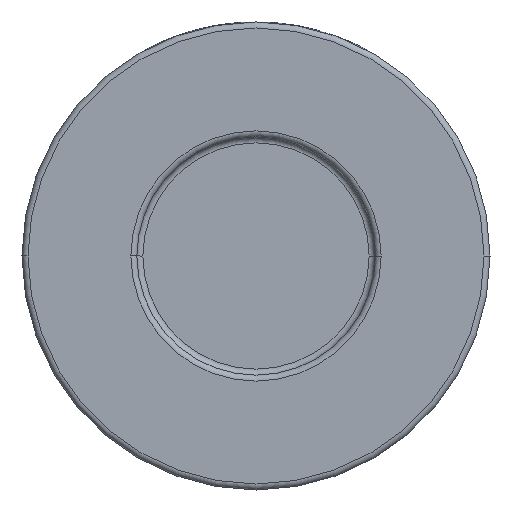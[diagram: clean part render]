
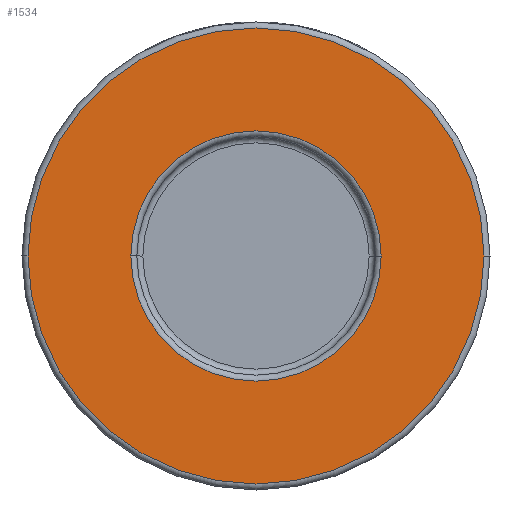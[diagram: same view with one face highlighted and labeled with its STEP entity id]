
A CAD part, front view. The second image highlights one B-rep face of the part: STEP entity #1534.
In plain terms, the highlighted planar face has unit normal (0, -1, 0).
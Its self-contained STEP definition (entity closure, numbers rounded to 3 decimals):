
#2 = VERTEX_POINT ( 'NONE', #937 ) ;
#11 = DIRECTION ( 'NONE',  ( 0., -1., 0. ) ) ;
#224 = CIRCLE ( 'NONE', #2835, 38. ) ;
#301 = DIRECTION ( 'NONE',  ( 0., -1., 0. ) ) ;
#399 = CARTESIAN_POINT ( 'NONE',  ( 0., -29., 0. ) ) ;
#573 = VERTEX_POINT ( 'NONE', #4631 ) ;
#723 = VERTEX_POINT ( 'NONE', #2298 ) ;
#895 = CIRCLE ( 'NONE', #3442, 38. ) ;
#896 = EDGE_CURVE ( 'NONE', #2, #573, #895, .T. ) ;
#937 = CARTESIAN_POINT ( 'NONE',  ( 38., -29., 0. ) ) ;
#1167 = EDGE_LOOP ( 'NONE', ( #1705, #2759 ) ) ;
#1256 = AXIS2_PLACEMENT_3D ( 'NONE', #2396, #3422, #3828 ) ;
#1271 = AXIS2_PLACEMENT_3D ( 'NONE', #2318, #1516, #3655 ) ;
#1495 = CIRCLE ( 'NONE', #4121, 20.85 ) ;
#1516 = DIRECTION ( 'NONE',  ( 0., -1., 0. ) ) ;
#1534 = ADVANCED_FACE ( 'NONE', ( #3725, #2292 ), #1616, .T. ) ;
#1553 = CIRCLE ( 'NONE', #1256, 20.85 ) ;
#1616 = PLANE ( 'NONE',  #1271 ) ;
#1705 = ORIENTED_EDGE ( 'NONE', *, *, #896, .T. ) ;
#1713 = CARTESIAN_POINT ( 'NONE',  ( 0., -29., 0. ) ) ;
#1764 = EDGE_CURVE ( 'NONE', #573, #2, #224, .T. ) ;
#2210 = EDGE_CURVE ( 'NONE', #2322, #723, #1495, .T. ) ;
#2292 = FACE_OUTER_BOUND ( 'NONE', #1167, .T. ) ;
#2298 = CARTESIAN_POINT ( 'NONE',  ( 20.85, -29., 0. ) ) ;
#2318 = CARTESIAN_POINT ( 'NONE',  ( 39., -29., 0. ) ) ;
#2322 = VERTEX_POINT ( 'NONE', #3498 ) ;
#2353 = EDGE_LOOP ( 'NONE', ( #2445, #4612 ) ) ;
#2396 = CARTESIAN_POINT ( 'NONE',  ( 0., -29., 0. ) ) ;
#2445 = ORIENTED_EDGE ( 'NONE', *, *, #3676, .T. ) ;
#2498 = DIRECTION ( 'NONE',  ( 1., 0., 0. ) ) ;
#2505 = DIRECTION ( 'NONE',  ( 1., 0., 0. ) ) ;
#2759 = ORIENTED_EDGE ( 'NONE', *, *, #1764, .T. ) ;
#2835 = AXIS2_PLACEMENT_3D ( 'NONE', #3956, #11, #2498 ) ;
#2972 = DIRECTION ( 'NONE',  ( 1., 0., 0. ) ) ;
#3422 = DIRECTION ( 'NONE',  ( 0., 1., 0. ) ) ;
#3442 = AXIS2_PLACEMENT_3D ( 'NONE', #1713, #301, #2505 ) ;
#3498 = CARTESIAN_POINT ( 'NONE',  ( -20.85, -29., 0. ) ) ;
#3655 = DIRECTION ( 'NONE',  ( 1., 0., 0. ) ) ;
#3676 = EDGE_CURVE ( 'NONE', #723, #2322, #1553, .T. ) ;
#3711 = DIRECTION ( 'NONE',  ( 0., 1., 0. ) ) ;
#3725 = FACE_BOUND ( 'NONE', #2353, .T. ) ;
#3828 = DIRECTION ( 'NONE',  ( 1., 0., 0. ) ) ;
#3956 = CARTESIAN_POINT ( 'NONE',  ( 0., -29., 0. ) ) ;
#4121 = AXIS2_PLACEMENT_3D ( 'NONE', #399, #3711, #2972 ) ;
#4612 = ORIENTED_EDGE ( 'NONE', *, *, #2210, .T. ) ;
#4631 = CARTESIAN_POINT ( 'NONE',  ( -38., -29., 0. ) ) ;
